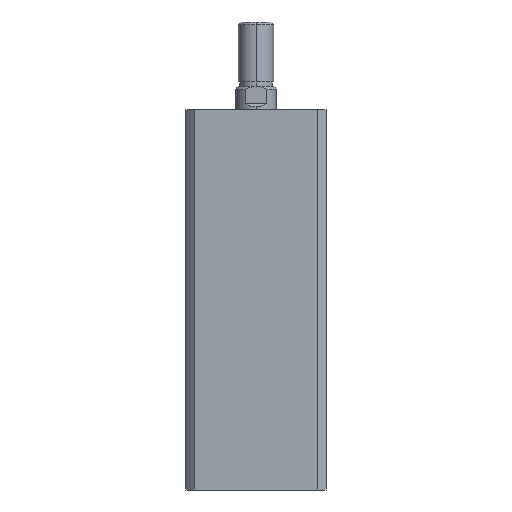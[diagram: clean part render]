
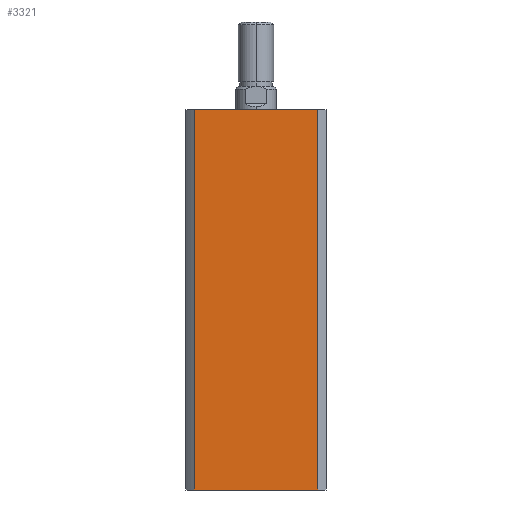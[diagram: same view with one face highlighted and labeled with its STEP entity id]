
A CAD part, left-side view. The second image highlights one B-rep face of the part: STEP entity #3321.
In plain terms, the highlighted planar face has unit normal (-1, 0, 0).
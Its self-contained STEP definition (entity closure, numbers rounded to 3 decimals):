
#440 = PLANE ( 'NONE',  #5185 ) ;
#442 = CARTESIAN_POINT ( 'NONE',  ( -24., 0., 130. ) ) ;
#444 = DIRECTION ( 'NONE',  ( 1., 0., 0. ) ) ;
#445 = DIRECTION ( 'NONE',  ( 0., 0., -1. ) ) ;
#1032 = DIRECTION ( 'NONE',  ( 0., 0., -1. ) ) ;
#1035 = CARTESIAN_POINT ( 'NONE',  ( -24., -21.166, 130. ) ) ;
#1036 = CARTESIAN_POINT ( 'NONE',  ( -24., 21.166, 130. ) ) ;
#1040 = DIRECTION ( 'NONE',  ( 0., 0., -1. ) ) ;
#1041 = CARTESIAN_POINT ( 'NONE',  ( -24., 0., 0. ) ) ;
#1042 = DIRECTION ( 'NONE',  ( 0., -1., 0. ) ) ;
#1183 = CARTESIAN_POINT ( 'NONE',  ( -24., 0., 130. ) ) ;
#1184 = DIRECTION ( 'NONE',  ( 0., -1., 0. ) ) ;
#1418 = LINE ( 'NONE', #1183, #1420 ) ;
#1420 = VECTOR ( 'NONE', #1184, 1000. ) ;
#2995 = FACE_OUTER_BOUND ( 'NONE', #3596, .T. ) ;
#3297 = LINE ( 'NONE', #1036, #3302 ) ;
#3301 = LINE ( 'NONE', #1035, #3304 ) ;
#3302 = VECTOR ( 'NONE', #1032, 1000. ) ;
#3303 = LINE ( 'NONE', #1041, #3305 ) ;
#3304 = VECTOR ( 'NONE', #1040, 1000. ) ;
#3305 = VECTOR ( 'NONE', #1042, 1000. ) ;
#3321 = ADVANCED_FACE ( 'NONE', ( #2995 ), #440, .F. ) ;
#3596 = EDGE_LOOP ( 'NONE', ( #4573, #4572, #4571, #4570 ) ) ;
#4178 = CARTESIAN_POINT ( 'NONE',  ( -24., 21.166, 130. ) ) ;
#4198 = CARTESIAN_POINT ( 'NONE',  ( -24., -21.166, 130. ) ) ;
#4202 = CARTESIAN_POINT ( 'NONE',  ( -24., 21.166, 0. ) ) ;
#4219 = CARTESIAN_POINT ( 'NONE',  ( -24., -21.166, 0. ) ) ;
#4570 = ORIENTED_EDGE ( 'NONE', *, *, #4903, .T. ) ;
#4571 = ORIENTED_EDGE ( 'NONE', *, *, #4934, .F. ) ;
#4572 = ORIENTED_EDGE ( 'NONE', *, *, #4904, .F. ) ;
#4573 = ORIENTED_EDGE ( 'NONE', *, *, #4905, .T. ) ;
#4799 = VERTEX_POINT ( 'NONE', #4178 ) ;
#4819 = VERTEX_POINT ( 'NONE', #4198 ) ;
#4823 = VERTEX_POINT ( 'NONE', #4202 ) ;
#4840 = VERTEX_POINT ( 'NONE', #4219 ) ;
#4903 = EDGE_CURVE ( 'NONE', #4799, #4823, #3297, .T. ) ;
#4904 = EDGE_CURVE ( 'NONE', #4819, #4840, #3301, .T. ) ;
#4905 = EDGE_CURVE ( 'NONE', #4823, #4840, #3303, .T. ) ;
#4934 = EDGE_CURVE ( 'NONE', #4799, #4819, #1418, .T. ) ;
#5185 = AXIS2_PLACEMENT_3D ( 'NONE', #442, #444, #445 ) ;
